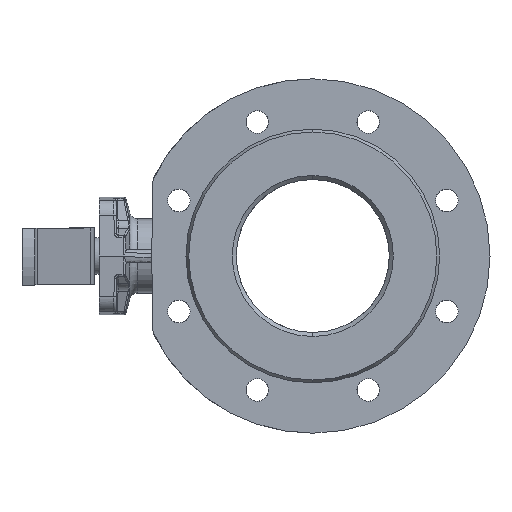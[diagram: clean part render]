
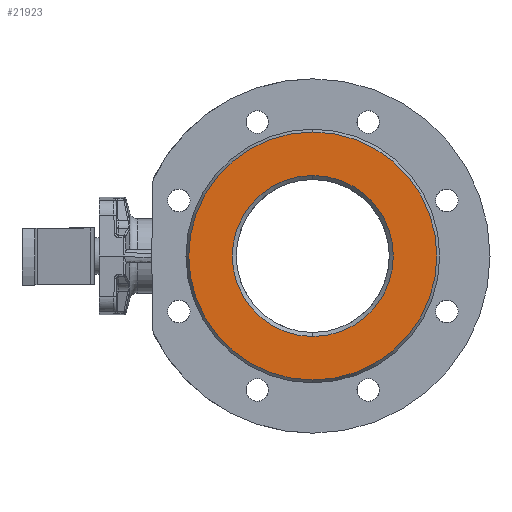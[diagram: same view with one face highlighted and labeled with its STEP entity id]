
A CAD part, left-side view. The second image highlights one B-rep face of the part: STEP entity #21923.
In plain terms, the highlighted planar face has unit normal (-1, 0, 0).
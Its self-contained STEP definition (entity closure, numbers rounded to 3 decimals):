
#4019 = DIRECTION ( 'NONE',  ( 0., 0., 1. ) ) ;
#4020 = DIRECTION ( 'NONE',  ( -1., 0., 0. ) ) ;
#4021 = AXIS2_PLACEMENT_3D ( 'NONE', #4174, #4020, #4019 ) ;
#4022 = CIRCLE ( 'NONE', #4021, 77. ) ;
#4174 = CARTESIAN_POINT ( 'NONE',  ( -65., 0., 0. ) ) ;
#4255 = DIRECTION ( 'NONE',  ( 0., 0., 1. ) ) ;
#4256 = DIRECTION ( 'NONE',  ( -1., 0., 0. ) ) ;
#4257 = AXIS2_PLACEMENT_3D ( 'NONE', #4407, #4256, #4255 ) ;
#4258 = CIRCLE ( 'NONE', #4257, 50. ) ;
#4336 = DIRECTION ( 'NONE',  ( 0., 0., -1. ) ) ;
#4337 = DIRECTION ( 'NONE',  ( 1., 0., 0. ) ) ;
#4338 = CARTESIAN_POINT ( 'NONE',  ( -65., 50., 0. ) ) ;
#4407 = CARTESIAN_POINT ( 'NONE',  ( -65., 0., 0. ) ) ;
#4422 = AXIS2_PLACEMENT_3D ( 'NONE', #4338, #4337, #4336 ) ;
#4423 = PLANE ( 'NONE',  #4422 ) ;
#4424 = FACE_OUTER_BOUND ( 'NONE', #21795, .T. ) ;
#4425 = FACE_BOUND ( 'NONE', #21905, .T. ) ;
#5691 = CARTESIAN_POINT ( 'NONE',  ( -65., 0., -50. ) ) ;
#5946 = CIRCLE ( 'NONE', #5982, 50. ) ;
#5979 = DIRECTION ( 'NONE',  ( 0., 0., 1. ) ) ;
#5980 = DIRECTION ( 'NONE',  ( -1., 0., 0. ) ) ;
#5981 = CARTESIAN_POINT ( 'NONE',  ( -65., 0., 0. ) ) ;
#5982 = AXIS2_PLACEMENT_3D ( 'NONE', #5981, #5980, #5979 ) ;
#6013 = CARTESIAN_POINT ( 'NONE',  ( -65., 0., 50. ) ) ;
#6454 = CARTESIAN_POINT ( 'NONE',  ( -65., 0., -77. ) ) ;
#6455 = CARTESIAN_POINT ( 'NONE',  ( -65., 0., 77. ) ) ;
#6456 = DIRECTION ( 'NONE',  ( 0., 0., 1. ) ) ;
#6457 = DIRECTION ( 'NONE',  ( -1., 0., 0. ) ) ;
#6458 = AXIS2_PLACEMENT_3D ( 'NONE', #6509, #6457, #6456 ) ;
#6459 = CIRCLE ( 'NONE', #6458, 77. ) ;
#6509 = CARTESIAN_POINT ( 'NONE',  ( -65., 0., 0. ) ) ;
#21792 = ORIENTED_EDGE ( 'NONE', *, *, #24315, .F. ) ;
#21795 = EDGE_LOOP ( 'NONE', ( #21797, #21801 ) ) ;
#21797 = ORIENTED_EDGE ( 'NONE', *, *, #21799, .T. ) ;
#21799 = EDGE_CURVE ( 'NONE', #24442, #24439, #4022, .T. ) ;
#21801 = ORIENTED_EDGE ( 'NONE', *, *, #24438, .T. ) ;
#21903 = EDGE_CURVE ( 'NONE', #24316, #24231, #4258, .T. ) ;
#21905 = EDGE_LOOP ( 'NONE', ( #21924, #21792 ) ) ;
#21923 = ADVANCED_FACE ( 'NONE', ( #4425, #4424 ), #4423, .F. ) ;
#21924 = ORIENTED_EDGE ( 'NONE', *, *, #21903, .F. ) ;
#24231 = VERTEX_POINT ( 'NONE', #5691 ) ;
#24315 = EDGE_CURVE ( 'NONE', #24231, #24316, #5946, .T. ) ;
#24316 = VERTEX_POINT ( 'NONE', #6013 ) ;
#24438 = EDGE_CURVE ( 'NONE', #24439, #24442, #6459, .T. ) ;
#24439 = VERTEX_POINT ( 'NONE', #6455 ) ;
#24442 = VERTEX_POINT ( 'NONE', #6454 ) ;
